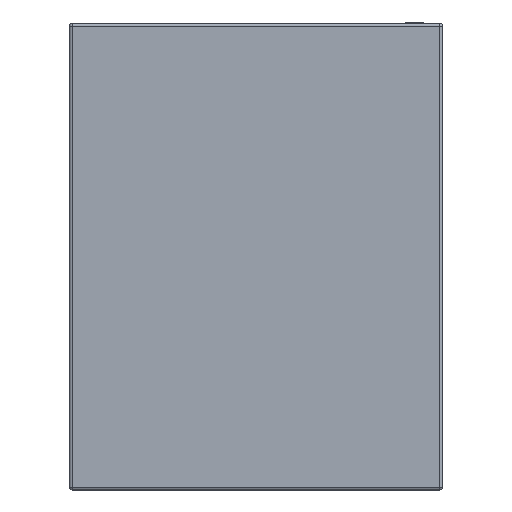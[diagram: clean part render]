
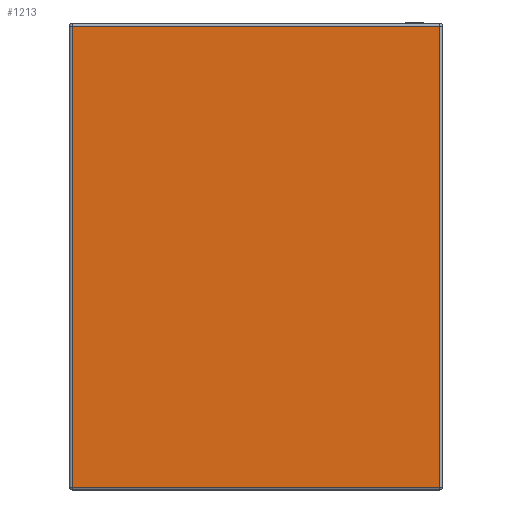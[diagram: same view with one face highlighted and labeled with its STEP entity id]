
A CAD part, left-side view. The second image highlights one B-rep face of the part: STEP entity #1213.
In plain terms, the highlighted planar face has unit normal (-1, 0, 0).
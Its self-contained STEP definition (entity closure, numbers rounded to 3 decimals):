
#71=PLANE('',#1349);
#140=FACE_OUTER_BOUND('',#220,.T.);
#220=EDGE_LOOP('',(#1039,#1040,#1041,#1042));
#319=LINE('',#1963,#429);
#326=LINE('',#1992,#436);
#327=LINE('',#1994,#437);
#333=LINE('',#2011,#443);
#429=VECTOR('',#1612,10.);
#436=VECTOR('',#1651,10.);
#437=VECTOR('',#1654,10.);
#443=VECTOR('',#1678,10.);
#568=VERTEX_POINT('',#1937);
#573=VERTEX_POINT('',#1952);
#574=VERTEX_POINT('',#1957);
#581=VERTEX_POINT('',#1987);
#711=EDGE_CURVE('',#574,#568,#319,.T.);
#727=EDGE_CURVE('',#573,#581,#326,.T.);
#728=EDGE_CURVE('',#581,#574,#327,.T.);
#737=EDGE_CURVE('',#568,#573,#333,.T.);
#1039=ORIENTED_EDGE('',*,*,#727,.F.);
#1040=ORIENTED_EDGE('',*,*,#737,.F.);
#1041=ORIENTED_EDGE('',*,*,#711,.F.);
#1042=ORIENTED_EDGE('',*,*,#728,.F.);
#1213=ADVANCED_FACE('',(#140),#71,.T.);
#1349=AXIS2_PLACEMENT_3D('',#2015,#1685,#1686);
#1612=DIRECTION('',(0.,0.,-1.));
#1651=DIRECTION('',(0.,0.,1.));
#1654=DIRECTION('',(0.,-1.,0.));
#1678=DIRECTION('',(0.,1.,0.));
#1685=DIRECTION('center_axis',(-1.,0.,0.));
#1686=DIRECTION('ref_axis',(0.,-1.,0.));
#1937=CARTESIAN_POINT('',(-125.,-197.,3.));
#1952=CARTESIAN_POINT('',(-125.,197.,3.));
#1957=CARTESIAN_POINT('',(-125.,-197.,497.));
#1963=CARTESIAN_POINT('',(-125.,-197.,0.));
#1987=CARTESIAN_POINT('',(-125.,197.,497.));
#1992=CARTESIAN_POINT('',(-125.,197.,0.));
#1994=CARTESIAN_POINT('',(-125.,100.,497.));
#2011=CARTESIAN_POINT('',(-125.,100.,3.));
#2015=CARTESIAN_POINT('Origin',(-125.,200.,0.));
